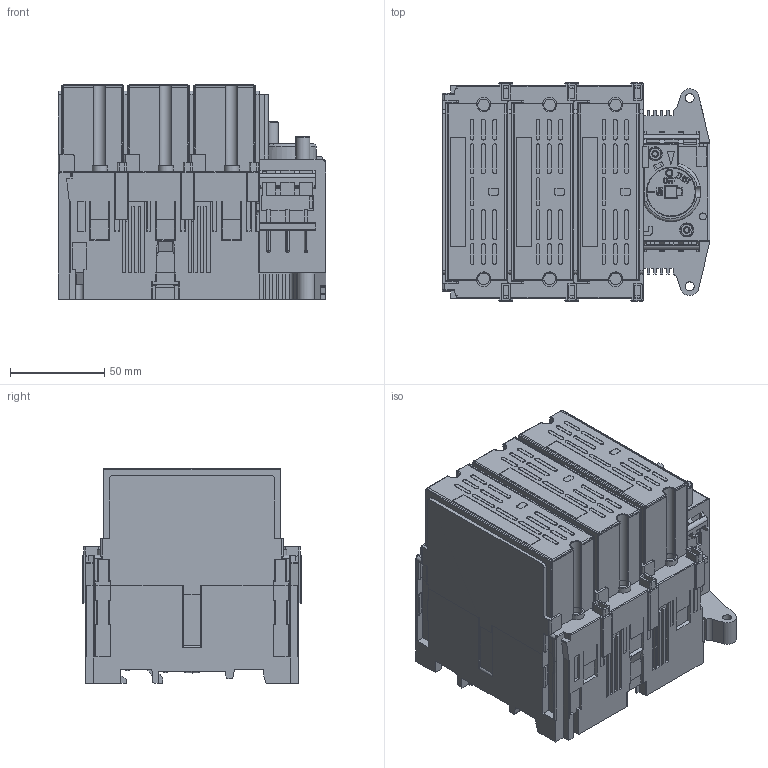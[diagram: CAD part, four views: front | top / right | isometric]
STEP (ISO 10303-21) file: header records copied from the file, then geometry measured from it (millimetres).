
FILE_DESCRIPTION((''),'2;1');
FILE_NAME('10006006251','2021-09-27T16:39:45',('NRATHI'),('Rockwell Automation'),'CREO PARAMETRIC BY PTC INC, 2019444','CREO PARAMETRIC BY PTC INC, 2019444','');
FILE_SCHEMA(('CONFIG_CONTROL_DESIGN'));
Products named in the file (1): 10006006251
Bounding box: 142.24 x 116 x 114 mm (x, y, z)
Volume: 1320709.3 mm3; surface area: 170840.3 mm2
Topology: 1 solids, 10 shells, 2603 faces, 7307 edges, 4772 vertices
Faces by surface type: plane 1793, cylinder 684, torus 55, sphere 35, extrusion 23, bspline 10, cone 3
Entity records: 84571 total; most frequent: CARTESIAN_POINT 16987, ORIENTED_EDGE 14534, DIRECTION 13441, EDGE_CURVE 7271, VECTOR 5591, LINE 5568, VERTEX_POINT 4769, AXIS2_PLACEMENT_3D 3925
